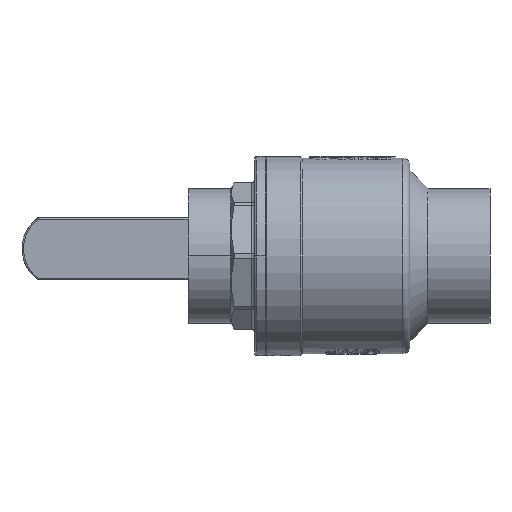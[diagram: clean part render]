
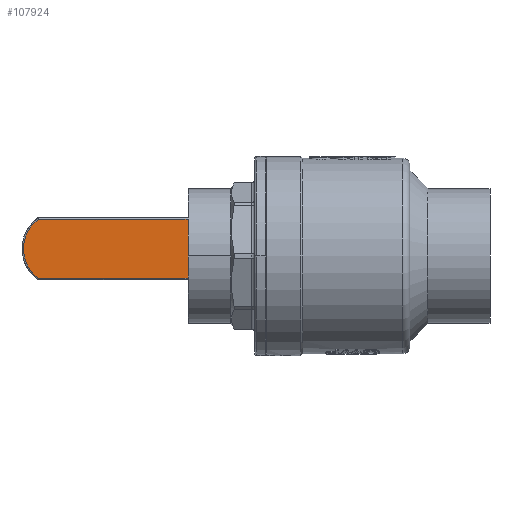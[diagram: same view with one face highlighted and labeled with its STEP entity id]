
A CAD part, front view. The second image highlights one B-rep face of the part: STEP entity #107924.
In plain terms, the highlighted planar face has unit normal (0, -1, 0).
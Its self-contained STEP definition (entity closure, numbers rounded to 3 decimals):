
#3703 = VERTEX_POINT ( 'NONE', #88117 ) ;
#5941 = EDGE_LOOP ( 'NONE', ( #8401, #112452, #118757, #19858 ) ) ;
#8401 = ORIENTED_EDGE ( 'NONE', *, *, #105854, .T. ) ;
#8855 = VECTOR ( 'NONE', #56299, 1000. ) ;
#15594 = EDGE_CURVE ( 'NONE', #36280, #42129, #110856, .T. ) ;
#17491 = DIRECTION ( 'NONE',  ( 0., 1., 0. ) ) ;
#19858 = ORIENTED_EDGE ( 'NONE', *, *, #115495, .T. ) ;
#23782 = CARTESIAN_POINT ( 'NONE',  ( -10.002, -6., 19.75 ) ) ;
#26930 = DIRECTION ( 'NONE',  ( -1., 0., 0. ) ) ;
#30041 = CARTESIAN_POINT ( 'NONE',  ( -155.066, -6., 19.75 ) ) ;
#36280 = VERTEX_POINT ( 'NONE', #60080 ) ;
#36598 = FACE_OUTER_BOUND ( 'NONE', #5941, .T. ) ;
#40027 = DIRECTION ( 'NONE',  ( -1., 0., 0. ) ) ;
#41842 = VERTEX_POINT ( 'NONE', #23782 ) ;
#42129 = VERTEX_POINT ( 'NONE', #53790 ) ;
#45843 = CIRCLE ( 'NONE', #87900, 24.5 ) ;
#45976 = VECTOR ( 'NONE', #69904, 1000. ) ;
#53790 = CARTESIAN_POINT ( 'NONE',  ( -10.002, -6., -19.75 ) ) ;
#56299 = DIRECTION ( 'NONE',  ( 0., 0., -1. ) ) ;
#59161 = DIRECTION ( 'NONE',  ( -1., 0., 0. ) ) ;
#59201 = LINE ( 'NONE', #66595, #8855 ) ;
#60080 = CARTESIAN_POINT ( 'NONE',  ( -154.632, -6., -19.75 ) ) ;
#60753 = CARTESIAN_POINT ( 'NONE',  ( -24.5, -6., 0. ) ) ;
#64578 = CARTESIAN_POINT ( 'NONE',  ( -155.5, -6., 19.75 ) ) ;
#66595 = CARTESIAN_POINT ( 'NONE',  ( -154.632, -6., -20.75 ) ) ;
#67264 = LINE ( 'NONE', #30041, #118904 ) ;
#69781 = EDGE_CURVE ( 'NONE', #42129, #41842, #45843, .T. ) ;
#69904 = DIRECTION ( 'NONE',  ( 1., 0., 0. ) ) ;
#87900 = AXIS2_PLACEMENT_3D ( 'NONE', #60753, #106537, #59161 ) ;
#88117 = CARTESIAN_POINT ( 'NONE',  ( -154.632, -6., 19.75 ) ) ;
#89631 = AXIS2_PLACEMENT_3D ( 'NONE', #64578, #17491, #26930 ) ;
#97510 = CARTESIAN_POINT ( 'NONE',  ( -155.5, -6., -19.75 ) ) ;
#105854 = EDGE_CURVE ( 'NONE', #3703, #36280, #59201, .T. ) ;
#106537 = DIRECTION ( 'NONE',  ( 0., -1., 0. ) ) ;
#107924 = ADVANCED_FACE ( 'NONE', ( #36598 ), #121077, .F. ) ;
#110856 = LINE ( 'NONE', #97510, #45976 ) ;
#112452 = ORIENTED_EDGE ( 'NONE', *, *, #15594, .T. ) ;
#115495 = EDGE_CURVE ( 'NONE', #41842, #3703, #67264, .T. ) ;
#118757 = ORIENTED_EDGE ( 'NONE', *, *, #69781, .T. ) ;
#118904 = VECTOR ( 'NONE', #40027, 1000. ) ;
#121077 = PLANE ( 'NONE',  #89631 ) ;
